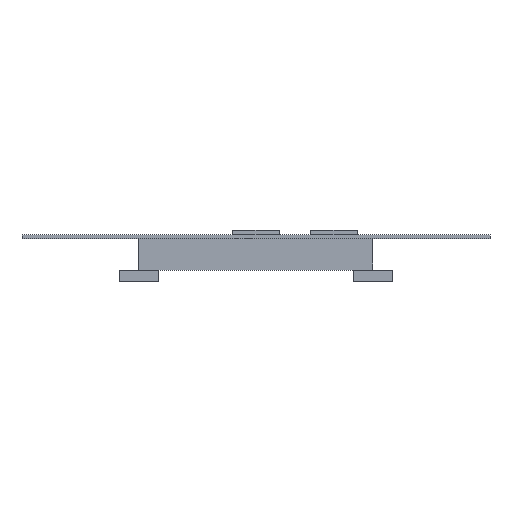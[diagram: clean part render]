
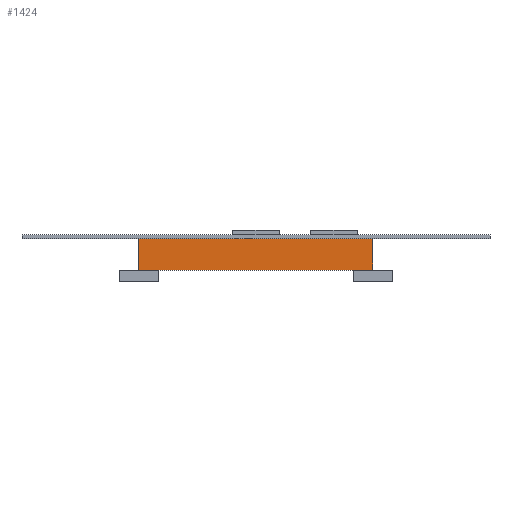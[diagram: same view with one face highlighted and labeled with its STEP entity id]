
A CAD part, front view. The second image highlights one B-rep face of the part: STEP entity #1424.
In plain terms, the highlighted planar face has unit normal (0, -1, 0).
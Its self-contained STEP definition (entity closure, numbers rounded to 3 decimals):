
#1196 = EDGE_CURVE('',#1197,#1199,#1201,.T.);
#1197 = VERTEX_POINT('',#1198);
#1198 = CARTESIAN_POINT('',(-300.,-200.,-80.));
#1199 = VERTEX_POINT('',#1200);
#1200 = CARTESIAN_POINT('',(-300.,-200.,0.));
#1201 = SURFACE_CURVE('',#1202,(#1206,#1218),.PCURVE_S1.);
#1202 = LINE('',#1203,#1204);
#1203 = CARTESIAN_POINT('',(-300.,-200.,-80.));
#1204 = VECTOR('',#1205,1.);
#1205 = DIRECTION('',(0.,0.,1.));
#1206 = PCURVE('',#1207,#1212);
#1207 = PLANE('',#1208);
#1208 = AXIS2_PLACEMENT_3D('',#1209,#1210,#1211);
#1209 = CARTESIAN_POINT('',(-300.,-200.,-80.));
#1210 = DIRECTION('',(1.,0.,0.));
#1211 = DIRECTION('',(0.,0.,1.));
#1212 = DEFINITIONAL_REPRESENTATION('',(#1213),#1217);
#1213 = LINE('',#1214,#1215);
#1214 = CARTESIAN_POINT('',(0.,0.));
#1215 = VECTOR('',#1216,1.);
#1216 = DIRECTION('',(1.,0.));
#1217 = ( GEOMETRIC_REPRESENTATION_CONTEXT(2) 
PARAMETRIC_REPRESENTATION_CONTEXT() REPRESENTATION_CONTEXT('2D SPACE',''
  ) );
#1218 = PCURVE('',#1219,#1224);
#1219 = PLANE('',#1220);
#1220 = AXIS2_PLACEMENT_3D('',#1221,#1222,#1223);
#1221 = CARTESIAN_POINT('',(-300.,-200.,-80.));
#1222 = DIRECTION('',(0.,1.,0.));
#1223 = DIRECTION('',(0.,0.,1.));
#1224 = DEFINITIONAL_REPRESENTATION('',(#1225),#1229);
#1225 = LINE('',#1226,#1227);
#1226 = CARTESIAN_POINT('',(0.,0.));
#1227 = VECTOR('',#1228,1.);
#1228 = DIRECTION('',(1.,0.));
#1229 = ( GEOMETRIC_REPRESENTATION_CONTEXT(2) 
PARAMETRIC_REPRESENTATION_CONTEXT() REPRESENTATION_CONTEXT('2D SPACE',''
  ) );
#1247 = PLANE('',#1248);
#1248 = AXIS2_PLACEMENT_3D('',#1249,#1250,#1251);
#1249 = CARTESIAN_POINT('',(-300.,-200.,-80.));
#1250 = DIRECTION('',(0.,0.,1.));
#1251 = DIRECTION('',(1.,0.,0.));
#1413 = PLANE('',#1414);
#1414 = AXIS2_PLACEMENT_3D('',#1415,#1416,#1417);
#1415 = CARTESIAN_POINT('',(-300.,-200.,0.));
#1416 = DIRECTION('',(0.,0.,1.));
#1417 = DIRECTION('',(1.,0.,0.));
#1424 = ADVANCED_FACE('',(#1425),#1219,.F.);
#1425 = FACE_BOUND('',#1426,.F.);
#1426 = EDGE_LOOP('',(#1427,#1450,#1451,#1474));
#1427 = ORIENTED_EDGE('',*,*,#1428,.F.);
#1428 = EDGE_CURVE('',#1197,#1429,#1431,.T.);
#1429 = VERTEX_POINT('',#1430);
#1430 = CARTESIAN_POINT('',(300.,-200.,-80.));
#1431 = SURFACE_CURVE('',#1432,(#1436,#1443),.PCURVE_S1.);
#1432 = LINE('',#1433,#1434);
#1433 = CARTESIAN_POINT('',(-300.,-200.,-80.));
#1434 = VECTOR('',#1435,1.);
#1435 = DIRECTION('',(1.,0.,0.));
#1436 = PCURVE('',#1219,#1437);
#1437 = DEFINITIONAL_REPRESENTATION('',(#1438),#1442);
#1438 = LINE('',#1439,#1440);
#1439 = CARTESIAN_POINT('',(0.,0.));
#1440 = VECTOR('',#1441,1.);
#1441 = DIRECTION('',(0.,1.));
#1442 = ( GEOMETRIC_REPRESENTATION_CONTEXT(2) 
PARAMETRIC_REPRESENTATION_CONTEXT() REPRESENTATION_CONTEXT('2D SPACE',''
  ) );
#1443 = PCURVE('',#1247,#1444);
#1444 = DEFINITIONAL_REPRESENTATION('',(#1445),#1449);
#1445 = LINE('',#1446,#1447);
#1446 = CARTESIAN_POINT('',(0.,0.));
#1447 = VECTOR('',#1448,1.);
#1448 = DIRECTION('',(1.,0.));
#1449 = ( GEOMETRIC_REPRESENTATION_CONTEXT(2) 
PARAMETRIC_REPRESENTATION_CONTEXT() REPRESENTATION_CONTEXT('2D SPACE',''
  ) );
#1450 = ORIENTED_EDGE('',*,*,#1196,.T.);
#1451 = ORIENTED_EDGE('',*,*,#1452,.T.);
#1452 = EDGE_CURVE('',#1199,#1453,#1455,.T.);
#1453 = VERTEX_POINT('',#1454);
#1454 = CARTESIAN_POINT('',(300.,-200.,0.));
#1455 = SURFACE_CURVE('',#1456,(#1460,#1467),.PCURVE_S1.);
#1456 = LINE('',#1457,#1458);
#1457 = CARTESIAN_POINT('',(-300.,-200.,0.));
#1458 = VECTOR('',#1459,1.);
#1459 = DIRECTION('',(1.,0.,0.));
#1460 = PCURVE('',#1219,#1461);
#1461 = DEFINITIONAL_REPRESENTATION('',(#1462),#1466);
#1462 = LINE('',#1463,#1464);
#1463 = CARTESIAN_POINT('',(80.,0.));
#1464 = VECTOR('',#1465,1.);
#1465 = DIRECTION('',(0.,1.));
#1466 = ( GEOMETRIC_REPRESENTATION_CONTEXT(2) 
PARAMETRIC_REPRESENTATION_CONTEXT() REPRESENTATION_CONTEXT('2D SPACE',''
  ) );
#1467 = PCURVE('',#1413,#1468);
#1468 = DEFINITIONAL_REPRESENTATION('',(#1469),#1473);
#1469 = LINE('',#1470,#1471);
#1470 = CARTESIAN_POINT('',(0.,0.));
#1471 = VECTOR('',#1472,1.);
#1472 = DIRECTION('',(1.,0.));
#1473 = ( GEOMETRIC_REPRESENTATION_CONTEXT(2) 
PARAMETRIC_REPRESENTATION_CONTEXT() REPRESENTATION_CONTEXT('2D SPACE',''
  ) );
#1474 = ORIENTED_EDGE('',*,*,#1475,.F.);
#1475 = EDGE_CURVE('',#1429,#1453,#1476,.T.);
#1476 = SURFACE_CURVE('',#1477,(#1481,#1488),.PCURVE_S1.);
#1477 = LINE('',#1478,#1479);
#1478 = CARTESIAN_POINT('',(300.,-200.,-80.));
#1479 = VECTOR('',#1480,1.);
#1480 = DIRECTION('',(0.,0.,1.));
#1481 = PCURVE('',#1219,#1482);
#1482 = DEFINITIONAL_REPRESENTATION('',(#1483),#1487);
#1483 = LINE('',#1484,#1485);
#1484 = CARTESIAN_POINT('',(0.,600.));
#1485 = VECTOR('',#1486,1.);
#1486 = DIRECTION('',(1.,0.));
#1487 = ( GEOMETRIC_REPRESENTATION_CONTEXT(2) 
PARAMETRIC_REPRESENTATION_CONTEXT() REPRESENTATION_CONTEXT('2D SPACE',''
  ) );
#1488 = PCURVE('',#1489,#1494);
#1489 = PLANE('',#1490);
#1490 = AXIS2_PLACEMENT_3D('',#1491,#1492,#1493);
#1491 = CARTESIAN_POINT('',(300.,-200.,-80.));
#1492 = DIRECTION('',(1.,0.,0.));
#1493 = DIRECTION('',(0.,0.,1.));
#1494 = DEFINITIONAL_REPRESENTATION('',(#1495),#1499);
#1495 = LINE('',#1496,#1497);
#1496 = CARTESIAN_POINT('',(0.,0.));
#1497 = VECTOR('',#1498,1.);
#1498 = DIRECTION('',(1.,0.));
#1499 = ( GEOMETRIC_REPRESENTATION_CONTEXT(2) 
PARAMETRIC_REPRESENTATION_CONTEXT() REPRESENTATION_CONTEXT('2D SPACE',''
  ) );
